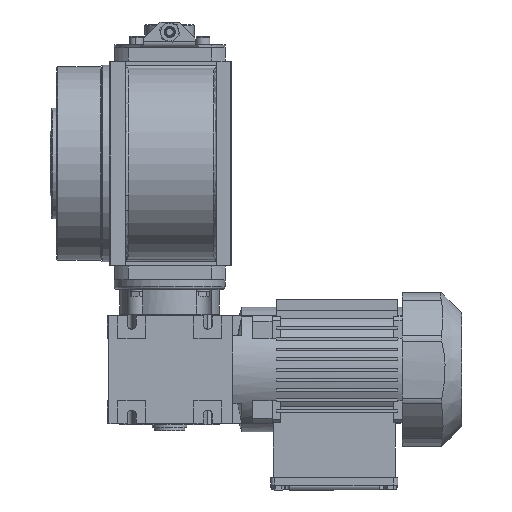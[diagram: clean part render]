
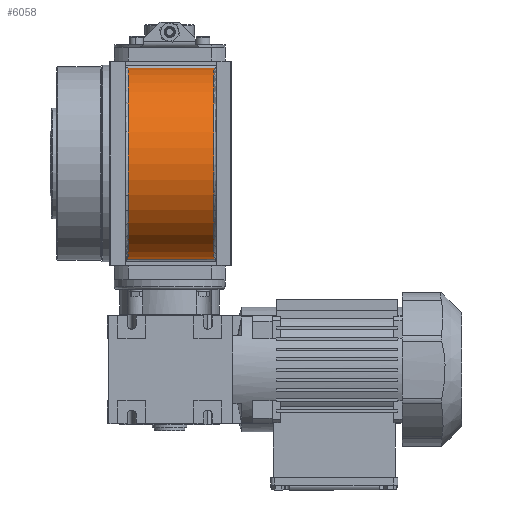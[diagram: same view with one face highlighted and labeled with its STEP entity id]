
A CAD part, left-side view. The second image highlights one B-rep face of the part: STEP entity #6058.
In plain terms, the highlighted cylindrical face has radius 69 mm (diameter 138 mm), a partial arc.
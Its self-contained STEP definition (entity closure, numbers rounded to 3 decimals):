
#1405 = AXIS2_PLACEMENT_3D ( 'NONE', #1436, #2172, #17825 ) ;
#1436 = CARTESIAN_POINT ( 'NONE',  ( 0., 64., 0. ) ) ;
#2172 = DIRECTION ( 'NONE',  ( 0., -1., 0. ) ) ;
#4754 = DIRECTION ( 'NONE',  ( 0., 1., 0. ) ) ;
#6058 = ADVANCED_FACE ( 'NONE', ( #48170 ), #48897, .T. ) ;
#9104 = CARTESIAN_POINT ( 'NONE',  ( -3.887, 64., 68.89 ) ) ;
#9139 = DIRECTION ( 'NONE',  ( 0., -1., 0. ) ) ;
#10575 = DIRECTION ( 'NONE',  ( 0., 0., -1. ) ) ;
#12069 = CARTESIAN_POINT ( 'NONE',  ( -3.887, 66., -68.89 ) ) ;
#12170 = EDGE_CURVE ( 'NONE', #19555, #14950, #40478, .T. ) ;
#13870 = VECTOR ( 'NONE', #45594, 1000. ) ;
#14247 = ORIENTED_EDGE ( 'NONE', *, *, #70340, .T. ) ;
#14950 = VERTEX_POINT ( 'NONE', #43588 ) ;
#17674 = ORIENTED_EDGE ( 'NONE', *, *, #64061, .T. ) ;
#17825 = DIRECTION ( 'NONE',  ( 0., 0., 1. ) ) ;
#19555 = VERTEX_POINT ( 'NONE', #64271 ) ;
#26676 = ORIENTED_EDGE ( 'NONE', *, *, #12170, .T. ) ;
#32860 = CIRCLE ( 'NONE', #1405, 69. ) ;
#35158 = DIRECTION ( 'NONE',  ( 0., 0., 1. ) ) ;
#36554 = CARTESIAN_POINT ( 'NONE',  ( -3.887, 66., 68.89 ) ) ;
#40478 = LINE ( 'NONE', #12069, #13870 ) ;
#40561 = ORIENTED_EDGE ( 'NONE', *, *, #65802, .T. ) ;
#42301 = CARTESIAN_POINT ( 'NONE',  ( 0., 66., 0. ) ) ;
#43588 = CARTESIAN_POINT ( 'NONE',  ( -3.887, 2., -68.89 ) ) ;
#45594 = DIRECTION ( 'NONE',  ( 0., -1., 0. ) ) ;
#48170 = FACE_OUTER_BOUND ( 'NONE', #63142, .T. ) ;
#48897 = CYLINDRICAL_SURFACE ( 'NONE', #69755, 69. ) ;
#56022 = VECTOR ( 'NONE', #4754, 1000. ) ;
#60127 = VERTEX_POINT ( 'NONE', #62825 ) ;
#62581 = CARTESIAN_POINT ( 'NONE',  ( 0., 2., 0. ) ) ;
#62825 = CARTESIAN_POINT ( 'NONE',  ( -3.887, 2., 68.89 ) ) ;
#62920 = LINE ( 'NONE', #36554, #56022 ) ;
#63142 = EDGE_LOOP ( 'NONE', ( #17674, #40561, #14247, #26676 ) ) ;
#63792 = AXIS2_PLACEMENT_3D ( 'NONE', #62581, #64036, #35158 ) ;
#64036 = DIRECTION ( 'NONE',  ( 0., 1., 0. ) ) ;
#64061 = EDGE_CURVE ( 'NONE', #14950, #60127, #70832, .T. ) ;
#64271 = CARTESIAN_POINT ( 'NONE',  ( -3.887, 64., -68.89 ) ) ;
#65802 = EDGE_CURVE ( 'NONE', #60127, #71197, #62920, .T. ) ;
#69755 = AXIS2_PLACEMENT_3D ( 'NONE', #42301, #9139, #10575 ) ;
#70340 = EDGE_CURVE ( 'NONE', #71197, #19555, #32860, .T. ) ;
#70832 = CIRCLE ( 'NONE', #63792, 69. ) ;
#71197 = VERTEX_POINT ( 'NONE', #9104 ) ;
